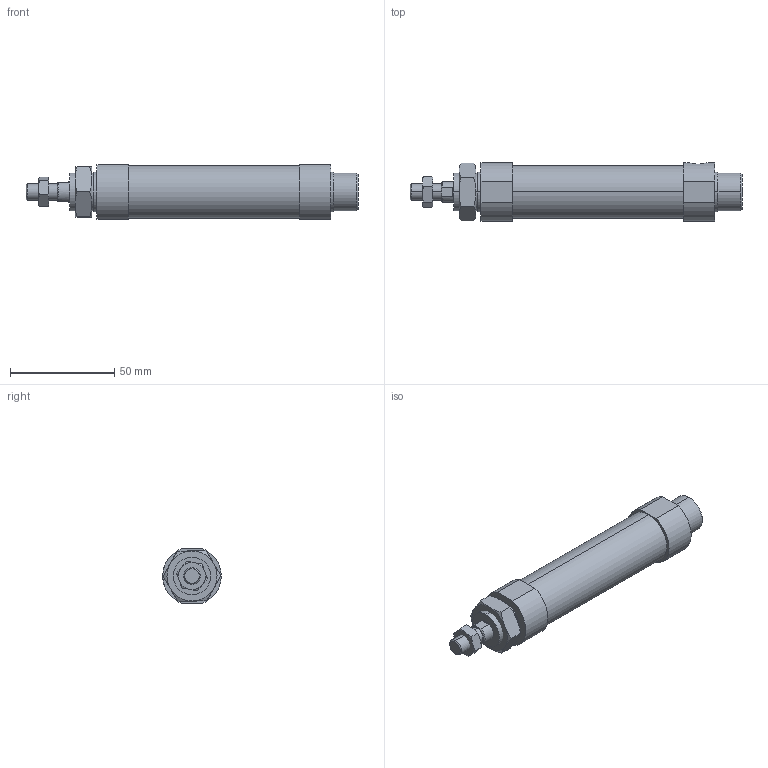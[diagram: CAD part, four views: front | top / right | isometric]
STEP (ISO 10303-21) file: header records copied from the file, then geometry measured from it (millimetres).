
FILE_DESCRIPTION (( 'STEP AP203' ), '1' );
FILE_NAME ('J#1-20-15(25)-N.STEP', '2016-03-08T06:42:03', ( '' ), ( '' ), 'SwSTEP 2.0', 'SolidWorks 2014', '' );
FILE_SCHEMA (( 'CONFIG_CONTROL_DESIGN' ));
Length unit declared in the file: millimetre
Products named in the file (4): J#1-20-15; J#1-20-15(25)-N
Assembly tree (3 placements, depth 2):
  J#1-20-15(25)-N
    J#1-20-15
    (unnamed)
    (unnamed)
Bounding box: 159 x 28 x 26 mm (x, y, z)
Volume: 68243.8 mm3; surface area: 15009.3 mm2
Topology: 3 solids, 3 shells, 89 faces, 192 edges, 118 vertices
Faces by surface type: plane 35, cylinder 24, torus 24, cone 6
Entity records: 3110 total; most frequent: CARTESIAN_POINT 795, DIRECTION 408, ORIENTED_EDGE 384, EDGE_CURVE 192, AXIS2_PLACEMENT_3D 175, VERTEX_POINT 118, EDGE_LOOP 102, ADVANCED_FACE 89
